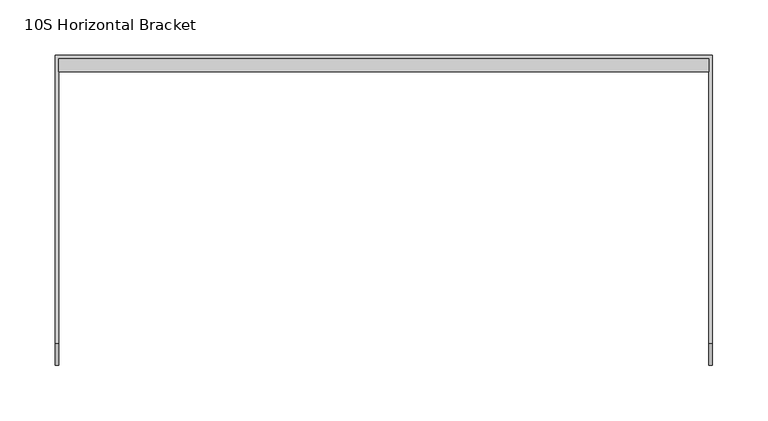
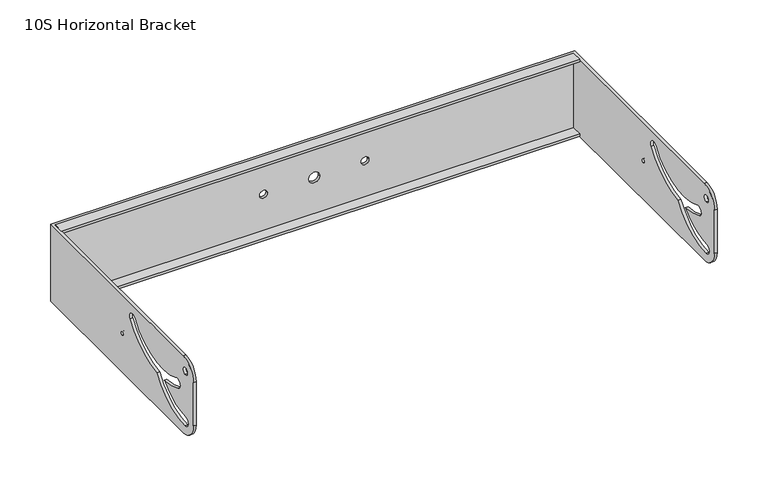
"""IFC4 building model written with IfcOpenShell, lengths in millimetres: proxy geometry, d&b xS-Series 10S Horizontal Bracket : 10S Horizontal Bracket."""

from ifc_helpers import new_model, si_unit, frame, origin, place, context, project, spatial, polyline, circle_curve, outline, extrude, source, transform, mapped, element, save
from ifc_brep_helpers import plane_surface, cylinder_surface, revolved_surface, advanced_brep


def proxy_10s_horizontal_bracket_22db2dfa(model_context):
    return source(origin(), model_context, "Body", "SolidModel", [
        extrude(outline(polyline([(-294.0, 238.7393957), (-294.0, 250.7393957), (294.0, 250.7393957), (294.0, 238.7393957), (-294.0, 238.7393957)])), frame((0.0, 0.0, -47.8092214), z_axis=(0.0, 0.0, 1.0), x_axis=(1.0, 0.0, 0.0)), (0.0, 0.0, 1.0), 3.0),
        extrude(outline(polyline([(-294.0, 238.7393957), (-294.0, 250.7393957), (294.0, 250.7393957), (294.0, 238.7393957), (-294.0, 238.7393957)])), frame((0.0, 0.0, 41.1907786), z_axis=(0.0, 0.0, 1.0), x_axis=(1.0, 0.0, 0.0)), (0.0, 0.0, 1.0), 3.0),
        advanced_brep(
        [(-294.0, 250.7393957, 44.1907786), (294.0, 250.7393957, 44.1907786), (294.0, -6.2606043, 44.1907786), (297.0, -6.2606043, 44.1907786), (297.0, 253.7393957, 44.1907786), (-297.0, 253.7393957, 44.1907786), (-297.0, -6.2606043, 44.1907786), (-294.0, -6.2606043, 44.1907786), (-297.0, 253.7393957, -47.8092214), (297.0, 253.7393957, -47.8092214), (297.0, -6.2606043, -47.8092214), (294.0, -6.2606043, -47.8092214), (294.0, 250.7393957, -47.8092214), (-294.0, 250.7393957, -47.8092214), (-294.0, -6.2606043, -47.8092214), (-297.0, -6.2606043, -47.8092214), (-297.0, -26.2606043, 24.1907786), (-297.0, -26.2606043, -27.8092214), (-294.0, -26.2606043, -27.8092214), (-294.0, -26.2606043, 24.1907786), (-294.0, -10.2606043, 24.1907786), (-294.0, -10.2606043, 32.1907786), (-294.0, -10.2421645, -37.3091897), (-294.0, -10.2579371, -26.3092228), (-294.0, 30.8747294, -7.5770229), (-294.0, 3.0846587, -0.4251091), (-294.0, 7.7858712, 9.5196685), (-294.0, 89.3065225, 31.5901932), (-294.0, 98.226093, 25.1568165), (-294.0, 44.9152582, -7.1520493), (-294.0, 113.7393957, -3.8092214), (-294.0, 113.7393957, 0.1907786), (-6.25, 250.7393957, -1.8092214), (6.25, 250.7393957, -1.8092214), (-62.0, 250.7393957, -1.8092214), (-53.0, 250.7393957, -1.8092214), (62.0, 250.7393957, -1.8092214), (53.0, 250.7393957, -1.8092214), (294.0, -26.2606043, -27.8092214), (294.0, -26.2606043, 24.1907786), (294.0, -10.2606043, 32.1907786), (294.0, -10.2606043, 24.1907786), (294.0, -10.2579371, -26.3092228), (294.0, -10.2421645, -37.3091897), (294.0, 44.9152582, -7.1520493), (294.0, 98.2303878, 25.1538533), (294.0, 89.3065225, 31.5901932), (294.0, 7.7858712, 9.5196685), (294.0, 3.0846587, -0.4251091), (294.0, 30.8747294, -7.5770229), (294.0, 113.7393957, 0.1907786), (294.0, 113.7393957, -3.8092214), (297.0, -26.2606043, -27.8092214), (297.0, -26.2606043, 24.1907786), (297.0, -10.2606043, 24.1907786), (297.0, -10.2606043, 32.1907786), (297.0, -10.2421645, -37.3091897), (297.0, -10.2579371, -26.3092228), (297.0, 30.8747294, -7.5770229), (297.0, 3.0846587, -0.4251091), (297.0, 7.7858712, 9.5196685), (297.0, 89.3065225, 31.5901932), (297.0, 98.226093, 25.1568165), (297.0, 44.9152582, -7.1520493), (297.0, 113.7393957, -3.8092214), (297.0, 113.7393957, 0.1907786), (6.25, 253.7393957, -1.8092214), (-6.25, 253.7393957, -1.8092214), (-53.0, 253.7393957, -1.8092214), (-62.0, 253.7393957, -1.8092214), (53.0, 253.7393957, -1.8092214), (62.0, 253.7393957, -1.8092214), (-297.0, -10.2606043, 32.1907786), (-297.0, -10.2606043, 24.1907786), (-297.0, -10.2579371, -26.3092228), (-297.0, -10.2421645, -37.3091897), (-297.0, 44.9152582, -7.1520493), (-297.0, 98.2303878, 25.1538533), (-297.0, 89.3065225, 31.5901932), (-297.0, 7.7858712, 9.5196685), (-297.0, 3.0846587, -0.4251091), (-297.0, 30.8747294, -7.5770229), (-297.0, 113.7393957, 0.1907786), (-297.0, 113.7393957, -3.8092214)],
        [
            (0, 1),
            (1, 2),
            (2, 3),
            (3, 4),
            (4, 5),
            (5, 6),
            (6, 7),
            (7, 0),
            (8, 9),
            (9, 10),
            (10, 11),
            (11, 12),
            (12, 13),
            (13, 14),
            (14, 15),
            (15, 8),
            (16, 17),
            (17, 18),
            (18, 19),
            (19, 16),
            (13, 0),
            (7, 19, circle_curve(frame((-294.0, -6.2606043, 24.1907786), z_axis=(1.0, 0.0, 0.0), x_axis=(0.0, -1.0, 0.0)), 20.0)),
            (18, 14, circle_curve(frame((-294.0, -6.2606043, -27.8092214), z_axis=(1.0, 0.0, 0.0), x_axis=(0.0, -1.0, 0.0)), 20.0)),
            (20, 21, circle_curve(frame((-294.0, -10.2606043, 28.1907786), z_axis=(-1.0, 0.0, 0.0), x_axis=(0.0, 0.0, -1.0)), 4.0)),
            (21, 20, circle_curve(frame((-294.0, -10.2606043, 28.1907786), z_axis=(-1.0, 0.0, 0.0), x_axis=(0.0, 0.0, -1.0)), 4.0)),
            (22, 23, circle_curve(frame((-294.0, -10.2606043, -31.8092214), z_axis=(-1.0, 0.0, 0.0), x_axis=(0.0, 0.0, -1.0)), 5.4999992)),
            (23, 24, circle_curve(frame((-294.0, -10.2315229, 28.1589821), z_axis=(1.0, 0.0, 0.0), x_axis=(0.0, 0.0, -1.0)), 54.4682113)),
            (24, 25, circle_curve(frame((-294.0, 35.6029059, 68.3628341), z_axis=(-1.0, 0.0, 0.0), x_axis=(0.0, 0.0, -1.0)), 76.0869077)),
            (25, 26, circle_curve(frame((-294.0, 5.435265, 4.5472797), z_axis=(-1.0, 0.0, 0.0), x_axis=(0.0, 0.0, -1.0)), 5.5)),
            (26, 27, circle_curve(frame((-294.0, 35.6029059, 68.3628341), z_axis=(1.0, 0.0, 0.0), x_axis=(0.0, 0.0, -1.0)), 65.0869077)),
            (27, 28, circle_curve(frame((-294.0, 93.6990178, 28.2802105), z_axis=(-1.0, 0.0, 0.0), x_axis=(0.0, 0.0, -1.0)), 5.5)),
            (28, 29, circle_curve(frame((-294.0, 35.6029059, 68.3628341), z_axis=(-1.0, 0.0, 0.0), x_axis=(0.0, 0.0, -1.0)), 76.0869076)),
            (29, 22, circle_curve(frame((-294.0, -10.361585, 28.4292755), z_axis=(-1.0, 0.0, 0.0), x_axis=(0.0, 0.0, -1.0)), 65.7385737)),
            (30, 31, circle_curve(frame((-294.0, 113.7393957, -1.8092214), z_axis=(-1.0, 0.0, 0.0), x_axis=(0.0, 0.0, -1.0)), 2.0)),
            (31, 30, circle_curve(frame((-294.0, 113.7393957, -1.8092214), z_axis=(-1.0, 0.0, 0.0), x_axis=(0.0, 0.0, -1.0)), 2.0)),
            (12, 1),
            (32, 33, circle_curve(frame((0.0, 250.7393957, -1.8092214), z_axis=(0.0, 1.0, 0.0), x_axis=(1.0, 0.0, 0.0)), 6.25)),
            (33, 32, circle_curve(frame((0.0, 250.7393957, -1.8092214), z_axis=(0.0, 1.0, 0.0), x_axis=(1.0, 0.0, 0.0)), 6.25)),
            (34, 35, circle_curve(frame((-57.5, 250.7393957, -1.8092214), z_axis=(0.0, 1.0, 0.0), x_axis=(1.0, 0.0, 0.0)), 4.5)),
            (35, 34, circle_curve(frame((-57.5, 250.7393957, -1.8092214), z_axis=(0.0, 1.0, 0.0), x_axis=(1.0, 0.0, 0.0)), 4.5)),
            (36, 37, circle_curve(frame((57.5, 250.7393957, -1.8092214), z_axis=(0.0, 1.0, 0.0), x_axis=(-1.0, 0.0, 0.0)), 4.5)),
            (37, 36, circle_curve(frame((57.5, 250.7393957, -1.8092214), z_axis=(0.0, 1.0, 0.0), x_axis=(-1.0, 0.0, 0.0)), 4.5)),
            (11, 38, circle_curve(frame((294.0, -6.2606043, -27.8092214), z_axis=(-1.0, 0.0, 0.0), x_axis=(0.0, -1.0, 0.0)), 20.0)),
            (38, 39),
            (39, 2, circle_curve(frame((294.0, -6.2606043, 24.1907786), z_axis=(-1.0, 0.0, 0.0), x_axis=(0.0, -1.0, 0.0)), 20.0)),
            (40, 41, circle_curve(frame((294.0, -10.2606043, 28.1907786), z_axis=(1.0, 0.0, 0.0), x_axis=(0.0, 0.0, -1.0)), 4.0)),
            (41, 40, circle_curve(frame((294.0, -10.2606043, 28.1907786), z_axis=(1.0, 0.0, 0.0), x_axis=(0.0, 0.0, -1.0)), 4.0)),
            (42, 43, circle_curve(frame((294.0, -10.2606043, -31.8092214), z_axis=(1.0, 0.0, 0.0), x_axis=(0.0, 0.0, -1.0)), 5.4999992)),
            (43, 44, circle_curve(frame((294.0, -10.361585, 28.4292755), z_axis=(1.0, 0.0, 0.0), x_axis=(0.0, 0.0, -1.0)), 65.7385737)),
            (44, 45, circle_curve(frame((294.0, 35.6029059, 68.3628341), z_axis=(1.0, 0.0, 0.0), x_axis=(0.0, 0.0, -1.0)), 76.0869076)),
            (45, 46, circle_curve(frame((294.0, 93.6990178, 28.2802105), z_axis=(1.0, 0.0, 0.0), x_axis=(0.0, 0.0, -1.0)), 5.5)),
            (46, 47, circle_curve(frame((294.0, 35.6029059, 68.3628341), z_axis=(-1.0, 0.0, 0.0), x_axis=(0.0, 0.0, -1.0)), 65.0869077)),
            (47, 48, circle_curve(frame((294.0, 5.435265, 4.5472797), z_axis=(1.0, 0.0, 0.0), x_axis=(0.0, 0.0, -1.0)), 5.5)),
            (48, 49, circle_curve(frame((294.0, 35.6029059, 68.3628341), z_axis=(1.0, 0.0, 0.0), x_axis=(0.0, 0.0, -1.0)), 76.0869077)),
            (49, 42, circle_curve(frame((294.0, -10.2315229, 28.1589821), z_axis=(-1.0, 0.0, 0.0), x_axis=(0.0, 0.0, -1.0)), 54.4682113)),
            (50, 51, circle_curve(frame((294.0, 113.7393957, -1.8092214), z_axis=(1.0, 0.0, 0.0), x_axis=(0.0, 0.0, -1.0)), 2.0)),
            (51, 50, circle_curve(frame((294.0, 113.7393957, -1.8092214), z_axis=(1.0, 0.0, 0.0), x_axis=(0.0, 0.0, -1.0)), 2.0)),
            (38, 52),
            (52, 53),
            (53, 39),
            (9, 4),
            (3, 53, circle_curve(frame((297.0, -6.2606043, 24.1907786), z_axis=(1.0, 0.0, 0.0), x_axis=(0.0, -1.0, 0.0)), 20.0)),
            (52, 10, circle_curve(frame((297.0, -6.2606043, -27.8092214), z_axis=(1.0, 0.0, 0.0), x_axis=(0.0, -1.0, 0.0)), 20.0)),
            (54, 55, circle_curve(frame((297.0, -10.2606043, 28.1907786), z_axis=(-1.0, 0.0, 0.0), x_axis=(0.0, 0.0, -1.0)), 4.0)),
            (55, 54, circle_curve(frame((297.0, -10.2606043, 28.1907786), z_axis=(-1.0, 0.0, 0.0), x_axis=(0.0, 0.0, -1.0)), 4.0)),
            (56, 57, circle_curve(frame((297.0, -10.2606043, -31.8092214), z_axis=(-1.0, 0.0, 0.0), x_axis=(0.0, 0.0, -1.0)), 5.4999992)),
            (57, 58, circle_curve(frame((297.0, -10.2315229, 28.1589821), z_axis=(1.0, 0.0, 0.0), x_axis=(0.0, 0.0, -1.0)), 54.4682113)),
            (58, 59, circle_curve(frame((297.0, 35.6029059, 68.3628341), z_axis=(-1.0, 0.0, 0.0), x_axis=(0.0, 0.0, -1.0)), 76.0869077)),
            (59, 60, circle_curve(frame((297.0, 5.435265, 4.5472797), z_axis=(-1.0, 0.0, 0.0), x_axis=(0.0, 0.0, -1.0)), 5.5)),
            (60, 61, circle_curve(frame((297.0, 35.6029059, 68.3628341), z_axis=(1.0, 0.0, 0.0), x_axis=(0.0, 0.0, -1.0)), 65.0869077)),
            (61, 62, circle_curve(frame((297.0, 93.6990178, 28.2802105), z_axis=(-1.0, 0.0, 0.0), x_axis=(0.0, 0.0, -1.0)), 5.5)),
            (62, 63, circle_curve(frame((297.0, 35.6029059, 68.3628341), z_axis=(-1.0, 0.0, 0.0), x_axis=(0.0, 0.0, -1.0)), 76.0869076)),
            (63, 56, circle_curve(frame((297.0, -10.361585, 28.4292755), z_axis=(-1.0, 0.0, 0.0), x_axis=(0.0, 0.0, -1.0)), 65.7385737)),
            (64, 65, circle_curve(frame((297.0, 113.7393957, -1.8092214), z_axis=(-1.0, 0.0, 0.0), x_axis=(0.0, 0.0, -1.0)), 2.0)),
            (65, 64, circle_curve(frame((297.0, 113.7393957, -1.8092214), z_axis=(-1.0, 0.0, 0.0), x_axis=(0.0, 0.0, -1.0)), 2.0)),
            (8, 5),
            (66, 67, circle_curve(frame((0.0, 253.7393957, -1.8092214), z_axis=(0.0, -1.0, 0.0), x_axis=(1.0, 0.0, 0.0)), 6.25)),
            (67, 66, circle_curve(frame((0.0, 253.7393957, -1.8092214), z_axis=(0.0, -1.0, 0.0), x_axis=(1.0, 0.0, 0.0)), 6.25)),
            (68, 69, circle_curve(frame((-57.5, 253.7393957, -1.8092214), z_axis=(0.0, -1.0, 0.0), x_axis=(1.0, 0.0, 0.0)), 4.5)),
            (69, 68, circle_curve(frame((-57.5, 253.7393957, -1.8092214), z_axis=(0.0, -1.0, 0.0), x_axis=(1.0, 0.0, 0.0)), 4.5)),
            (70, 71, circle_curve(frame((57.5, 253.7393957, -1.8092214), z_axis=(0.0, -1.0, 0.0), x_axis=(-1.0, 0.0, 0.0)), 4.5)),
            (71, 70, circle_curve(frame((57.5, 253.7393957, -1.8092214), z_axis=(0.0, -1.0, 0.0), x_axis=(-1.0, 0.0, 0.0)), 4.5)),
            (15, 17, circle_curve(frame((-297.0, -6.2606043, -27.8092214), z_axis=(-1.0, 0.0, 0.0), x_axis=(0.0, -1.0, 0.0)), 20.0)),
            (16, 6, circle_curve(frame((-297.0, -6.2606043, 24.1907786), z_axis=(-1.0, 0.0, 0.0), x_axis=(0.0, -1.0, 0.0)), 20.0)),
            (72, 73, circle_curve(frame((-297.0, -10.2606043, 28.1907786), z_axis=(1.0, 0.0, 0.0), x_axis=(0.0, 0.0, -1.0)), 4.0)),
            (73, 72, circle_curve(frame((-297.0, -10.2606043, 28.1907786), z_axis=(1.0, 0.0, 0.0), x_axis=(0.0, 0.0, -1.0)), 4.0)),
            (74, 75, circle_curve(frame((-297.0, -10.2606043, -31.8092214), z_axis=(1.0, 0.0, 0.0), x_axis=(0.0, 0.0, -1.0)), 5.4999992)),
            (75, 76, circle_curve(frame((-297.0, -10.361585, 28.4292755), z_axis=(1.0, 0.0, 0.0), x_axis=(0.0, 0.0, -1.0)), 65.7385737)),
            (76, 77, circle_curve(frame((-297.0, 35.6029059, 68.3628341), z_axis=(1.0, 0.0, 0.0), x_axis=(0.0, 0.0, -1.0)), 76.0869076)),
            (77, 78, circle_curve(frame((-297.0, 93.6990178, 28.2802105), z_axis=(1.0, 0.0, 0.0), x_axis=(0.0, 0.0, -1.0)), 5.5)),
            (78, 79, circle_curve(frame((-297.0, 35.6029059, 68.3628341), z_axis=(-1.0, 0.0, 0.0), x_axis=(0.0, 0.0, -1.0)), 65.0869077)),
            (79, 80, circle_curve(frame((-297.0, 5.435265, 4.5472797), z_axis=(1.0, 0.0, 0.0), x_axis=(0.0, 0.0, -1.0)), 5.5)),
            (80, 81, circle_curve(frame((-297.0, 35.6029059, 68.3628341), z_axis=(1.0, 0.0, 0.0), x_axis=(0.0, 0.0, -1.0)), 76.0869077)),
            (81, 74, circle_curve(frame((-297.0, -10.2315229, 28.1589821), z_axis=(-1.0, 0.0, 0.0), x_axis=(0.0, 0.0, -1.0)), 54.4682113)),
            (82, 83, circle_curve(frame((-297.0, 113.7393957, -1.8092214), z_axis=(1.0, 0.0, 0.0), x_axis=(0.0, 0.0, -1.0)), 2.0)),
            (83, 82, circle_curve(frame((-297.0, 113.7393957, -1.8092214), z_axis=(1.0, 0.0, 0.0), x_axis=(0.0, 0.0, -1.0)), 2.0)),
            (32, 67),
            (66, 33),
            (34, 69),
            (68, 35),
            (36, 71),
            (70, 37),
            (40, 55),
            (54, 41),
            (72, 21),
            (20, 73),
            (42, 57),
            (56, 43),
            (74, 23),
            (22, 75),
            (63, 44),
            (29, 76),
            (49, 58),
            (81, 24),
            (62, 45),
            (28, 77),
            (61, 46),
            (27, 78),
            (60, 47),
            (26, 79),
            (59, 48),
            (25, 80),
            (50, 65),
            (64, 51),
            (82, 31),
            (30, 83),
        ],
        [
            plane_surface(frame((-297.0, -26.2606043, 44.1907786), z_axis=(0.0, 0.0, 1.0), x_axis=(1.0, 0.0, 0.0))),
            plane_surface(frame((-297.0, -26.2606043, -47.8092214), z_axis=(0.0, 0.0, -1.0), x_axis=(-1.0, 0.0, 0.0))),
            plane_surface(frame((-297.0, -26.2606043, 44.1907786), z_axis=(0.0, -1.0, 0.0), x_axis=(0.0, 0.0, -1.0))),
            plane_surface(frame((-294.0, -26.2606043, 44.1907786), z_axis=(1.0, 0.0, 0.0), x_axis=(0.0, 0.0, -1.0))),
            plane_surface(frame((-294.0, 250.7393957, 44.1907786), z_axis=(0.0, -1.0, 0.0), x_axis=(0.0, 0.0, -1.0))),
            plane_surface(frame((294.0, 250.7393957, 44.1907786), z_axis=(-1.0, 0.0, 0.0), x_axis=(0.0, 0.0, -1.0))),
            plane_surface(frame((294.0, -26.2606043, 44.1907786), z_axis=(0.0, -1.0, 0.0), x_axis=(0.0, 0.0, -1.0))),
            plane_surface(frame((297.0, -26.2606043, 44.1907786), z_axis=(1.0, 0.0, 0.0), x_axis=(0.0, 0.0, -1.0))),
            plane_surface(frame((297.0, 253.7393957, 44.1907786), z_axis=(0.0, 1.0, 0.0), x_axis=(0.0, 0.0, -1.0))),
            plane_surface(frame((-297.0, 253.7393957, 44.1907786), z_axis=(-1.0, 0.0, 0.0), x_axis=(0.0, 0.0, -1.0))),
            cylinder_surface(frame((-400.0, -6.2606043, 24.1907786), z_axis=(-1.0, 0.0, 0.0), x_axis=(0.0, -1.0, 0.0)), 20.0),
            cylinder_surface(frame((0.0, -6.2606043, -27.8092214), z_axis=(-1.0, 0.0, 0.0), x_axis=(0.0, -1.0, 0.0)), 20.0),
            revolved_surface(polyline([(6.25, 253.7393957, -1.8092214), (6.25, 250.7393957, -1.8092214)]), (0.0, 238.7393957, -1.8092214), (0.0, 1.0, 0.0)),
            revolved_surface(polyline([(-53.0, 253.7393957, -1.8092214), (-53.0, 250.7393957, -1.8092214)]), (-57.5, 253.7393957, -1.8092214), (0.0, 1.0, 0.0)),
            revolved_surface(polyline([(53.0, 253.7393957, -1.8092214), (53.0, 250.7393957, -1.8092214)]), (57.5, 253.7393957, -1.8092214), (0.0, 1.0, 0.0)),
            revolved_surface(polyline([(297.0, -10.2606043, 24.1907786), (294.0, -10.2606043, 24.1907786)]), (-400.0, -10.2606043, 28.1907786), (1.0, 0.0, 0.0)),
            revolved_surface(polyline([(-294.0, -10.2606043, 24.1907786), (-297.0, -10.2606043, 24.1907786)]), (-400.0, -10.2606043, 28.1907786), (1.0, 0.0, 0.0)),
            revolved_surface(polyline([(297.0, -10.2606043, -37.309220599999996), (294.0, -10.2606043, -37.309220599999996)]), (0.0, -10.2606043, -31.8092214), (1.0, 0.0, 0.0)),
            revolved_surface(polyline([(-294.0, -10.2606043, -37.309220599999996), (-297.0, -10.2606043, -37.309220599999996)]), (0.0, -10.2606043, -31.8092214), (1.0, 0.0, 0.0)),
            revolved_surface(polyline([(297.0, -10.361585, -37.3092982), (294.0, -10.361585, -37.3092982)]), (0.0, -10.361585, 28.4292755), (1.0, 0.0, 0.0)),
            revolved_surface(polyline([(-294.0, -10.361585, -37.3092982), (-297.0, -10.361585, -37.3092982)]), (0.0, -10.361585, 28.4292755), (1.0, 0.0, 0.0)),
            cylinder_surface(frame((0.0, -10.2315229, 28.1589821), z_axis=(-1.0, 0.0, 0.0), x_axis=(0.0, 0.0, -1.0)), 54.4682113),
            revolved_surface(polyline([(297.0, 35.6029059, -7.724073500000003), (294.0, 35.6029059, -7.724073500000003)]), (0.0, 35.6029059, 68.3628341), (1.0, 0.0, 0.0)),
            revolved_surface(polyline([(-294.0, 35.6029059, -7.724073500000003), (-297.0, 35.6029059, -7.724073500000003)]), (0.0, 35.6029059, 68.3628341), (1.0, 0.0, 0.0)),
            revolved_surface(polyline([(297.0, 93.6990178, 22.7802105), (294.0, 93.6990178, 22.7802105)]), (0.0, 93.6990178, 28.2802105), (1.0, 0.0, 0.0)),
            revolved_surface(polyline([(-294.0, 93.6990178, 22.7802105), (-297.0, 93.6990178, 22.7802105)]), (0.0, 93.6990178, 28.2802105), (1.0, 0.0, 0.0)),
            cylinder_surface(frame((0.0, 35.6029059, 68.3628341), z_axis=(-1.0, 0.0, 0.0), x_axis=(0.0, 0.0, -1.0)), 65.0869077),
            revolved_surface(polyline([(297.0, 5.435265, -0.9527203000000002), (294.0, 5.435265, -0.9527203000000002)]), (0.0, 5.435265, 4.5472797), (1.0, 0.0, 0.0)),
            revolved_surface(polyline([(-294.0, 5.435265, -0.9527203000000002), (-297.0, 5.435265, -0.9527203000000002)]), (0.0, 5.435265, 4.5472797), (1.0, 0.0, 0.0)),
            revolved_surface(polyline([(297.0, 35.6029059, -7.724073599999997), (294.0, 35.6029059, -7.724073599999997)]), (0.0, 35.6029059, 68.3628341), (1.0, 0.0, 0.0)),
            revolved_surface(polyline([(-294.0, 35.6029059, -7.724073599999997), (-297.0, 35.6029059, -7.724073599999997)]), (0.0, 35.6029059, 68.3628341), (1.0, 0.0, 0.0)),
            revolved_surface(polyline([(297.0, 113.7393957, -3.8092214), (294.0, 113.7393957, -3.8092214)]), (0.0, 113.7393957, -1.8092214), (1.0, 0.0, 0.0)),
            revolved_surface(polyline([(-294.0, 113.7393957, -3.8092214), (-297.0, 113.7393957, -3.8092214)]), (0.0, 113.7393957, -1.8092214), (1.0, 0.0, 0.0)),
        ],
        [
            (0, [[1, 2, 3, 4, 5, 6, 7, 8]]),
            (1, [[9, 10, 11, 12, 13, 14, 15, 16]]),
            (2, [[17, 18, 19, 20]]),
            (3, [[21, -8, 22, -19, 23, -14], [24, 25], [26, 27, 28, 29, 30, 31, 32, 33], [34, 35]]),
            (4, [[-1, -21, -13, 36], [37, 38], [39, 40], [41, 42]]),
            (5, [[-36, -12, 43, 44, 45, -2], [46, 47], [48, 49, 50, 51, 52, 53, 54, 55], [56, 57]]),
            (6, [[-44, 58, 59, 60]]),
            (7, [[61, -4, 62, -59, 63, -10], [64, 65], [66, 67, 68, 69, 70, 71, 72, 73], [74, 75]]),
            (8, [[-5, -61, -9, 76], [77, 78], [79, 80], [81, 82]]),
            (9, [[-76, -16, 83, -17, 84, -6], [85, 86], [87, 88, 89, 90, 91, 92, 93, 94], [95, 96]]),
            (10, [[-3, -45, -60, -62]]),
            (10, [[-7, -84, -20, -22]]),
            (11, [[-11, -63, -58, -43]]),
            (11, [[-15, -23, -18, -83]]),
            (12, [[97, -77, 98, -37]]),
            (12, [[-97, -38, -98, -78]]),
            (13, [[99, -79, 100, -39]]),
            (13, [[-99, -40, -100, -80]]),
            (14, [[101, -81, 102, -41]]),
            (14, [[-101, -42, -102, -82]]),
            (15, [[103, -64, 104, -46]]),
            (16, [[105, -24, 106, -85]]),
            (15, [[-103, -47, -104, -65]]),
            (16, [[-105, -86, -106, -25]]),
            (17, [[107, -66, 108, -48]]),
            (18, [[109, -26, 110, -87]]),
            (19, [[-108, -73, 111, -49]]),
            (20, [[-110, -33, 112, -88]]),
            (21, [[-107, -55, 113, -67]]),
            (21, [[-109, -94, 114, -27]]),
            (22, [[-111, -72, 115, -50]]),
            (23, [[-112, -32, 116, -89]]),
            (24, [[-115, -71, 117, -51]]),
            (25, [[-116, -31, 118, -90]]),
            (26, [[-117, -70, 119, -52]]),
            (26, [[-118, -30, 120, -91]]),
            (27, [[-119, -69, 121, -53]]),
            (28, [[-120, -29, 122, -92]]),
            (29, [[-113, -54, -121, -68]]),
            (30, [[-114, -93, -122, -28]]),
            (31, [[123, -74, 124, -56]]),
            (32, [[125, -34, 126, -95]]),
            (31, [[-123, -57, -124, -75]]),
            (32, [[-125, -96, -126, -35]]),
        ],
    ),
    ])


if __name__ == "__main__":
    model = new_model("IFC4")
    model_context = context("Model", 3, world=origin())
    ifc_project = project(units=[si_unit("LENGTHUNIT", "METRE", prefix="MILLI")], contexts=[model_context])
    site = spatial("IfcSite", under=ifc_project)
    building = spatial("IfcBuilding", under=site)
    placement = place(None, origin())
    proxy_10s_horizontal_bracket_shape = proxy_10s_horizontal_bracket_22db2dfa(model_context)
    element("IfcBuildingElementProxy", 1, Name="d&b xS-Series 10S Horizontal Bracket : 10S Horizontal Bracket", ObjectType="d&b xS-Series 10S Horizontal Bracket : 10S Horizontal Bracket", at=placement, inside=building, context=model_context, shape_type="MappedRepresentation", body=[
        mapped(proxy_10s_horizontal_bracket_shape, transform((0.0, 0.0, 0.0), x_axis=(1.0, 0.0, 0.0), y_axis=(0.0, 1.0, 0.0), z_axis=(0.0, 0.0, 1.0))),
    ])
    save(model, "model.ifc")
